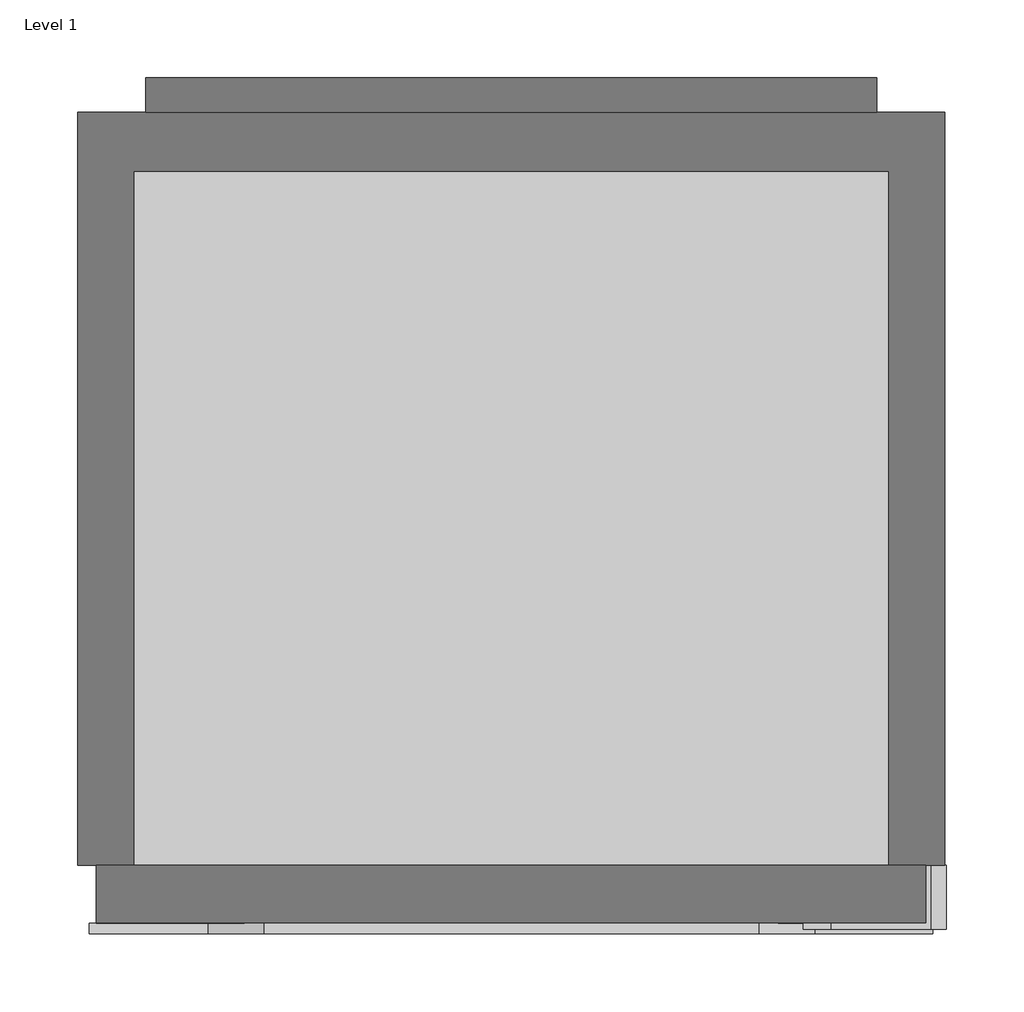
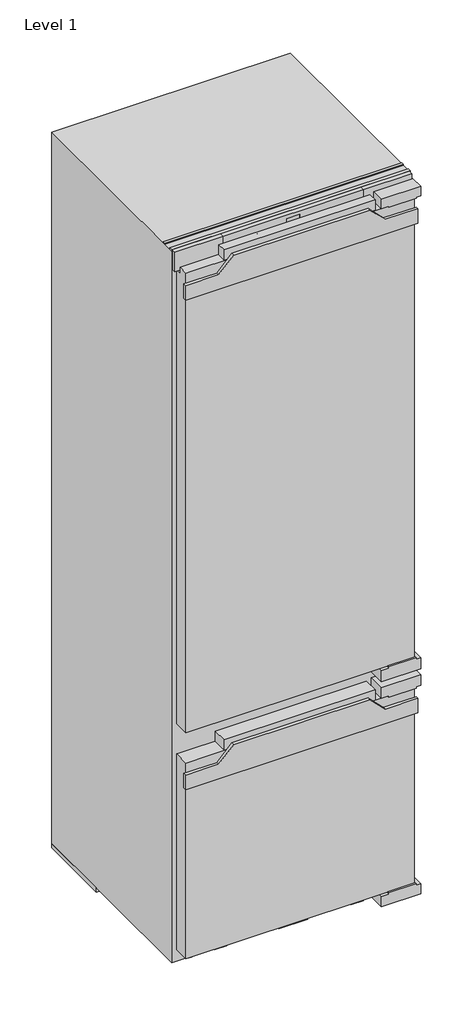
# One storey: 1 proxy.
"""IFC4 building model written with IfcOpenShell, lengths in millimetres."""

from ifc_helpers import new_model, si_unit, origin, place, context, project, spatial, transform, mapped, element, save
from components import specialty_equipment_e391ce8f

model = new_model("IFC4")

# Units and contexts
model_context = context("Model", 3, world=origin())
ifc_project = project(units=[si_unit("LENGTHUNIT", "METRE", prefix="MILLI")], contexts=[model_context])

# Site, building, storey
site = spatial("IfcSite", under=ifc_project)
building = spatial("IfcBuilding", under=site)
storey = spatial("IfcBuildingStorey", under=building, Name="Level 1", Elevation=0.0)

# Proxy
placement = place(None, origin())
specialty_equipment_shape = specialty_equipment_e391ce8f(model_context)
element("IfcBuildingElementProxy", 1, Name="11642240_EU1_KF7742D : 38774200_EU1_11642240_KF7742D", ObjectType="11642240_EU1_KF7742D : 38774200_EU1_11642240_KF7742D", at=placement, inside=storey, context=model_context, shape_type="MappedRepresentation", body=[
    mapped(specialty_equipment_shape, transform((0.0, 0.0, 0.0), x_axis=(1.0, 0.0, 0.0), y_axis=(0.0, 1.0, 0.0), z_axis=(0.0, 0.0, 1.0))),
])

save(model, "model.ifc")
